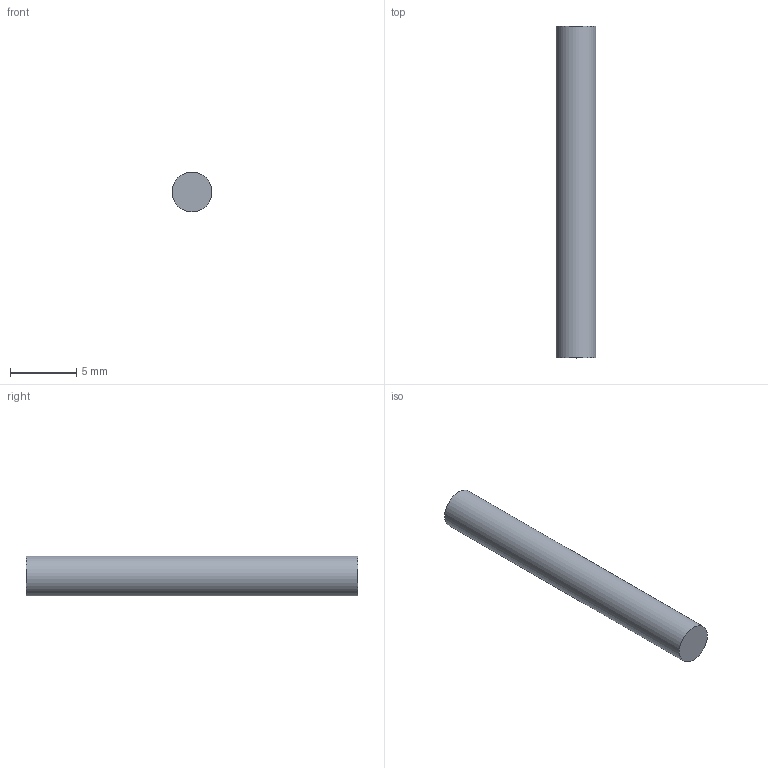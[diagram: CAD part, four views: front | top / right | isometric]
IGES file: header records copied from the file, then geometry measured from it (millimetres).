
Start section: Data from Parasolid IGES Translator 20.0.26, Copyright(c) 2006 Siemens P LM Software. All Rights Reserved.
Global section: file name: 9303926.igs; native system: By Siemens PLM Incorporated; preprocessor: XPlus GENERIC/IGES 20.0.26; author: Noname; organization: Noname; date: 20210824.171322; units: millimetre
Bounding box: 3 x 25 x 3 mm (x, y, z)
Surface area: 249.8 mm2 (no closed solid volume)
Topology: 0 solids, 0 shells, 3 faces, 6 edges, 4 vertices
Faces by surface type: extrusion 2, revolution 1
